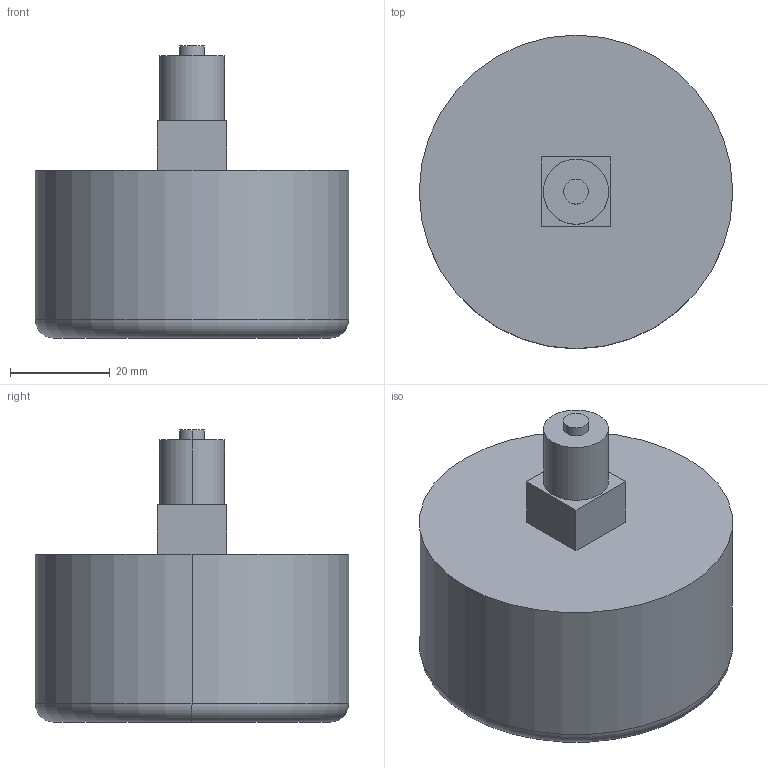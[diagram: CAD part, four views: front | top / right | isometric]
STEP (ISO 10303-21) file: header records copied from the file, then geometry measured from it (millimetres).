
FILE_DESCRIPTION (( 'STEP AP214' ), '1' );
FILE_NAME ('Manometr_puszkowy_x_0_3D_AFRISO.STEP', '2022-12-14T11:22:30', ( '' ), ( '' ), 'SwSTEP 2.0', 'SolidWorks 2022', '' );
FILE_SCHEMA (( 'AUTOMOTIVE_DESIGN' ));
Length unit declared in the file: millimetre
Products named in the file (1): Manometr_puszkowy_x_0_3D_AFRISO
Bounding box: 63 x 63 x 58.7 mm (x, y, z)
Volume: 108236.4 mm3; surface area: 13710.4 mm2
Topology: 1 solids, 1 shells, 17 faces, 34 edges, 22 vertices
Faces by surface type: plane 9, cylinder 6, torus 2
Entity records: 482 total; most frequent: DIRECTION 86, CARTESIAN_POINT 74, ORIENTED_EDGE 68, AXIS2_PLACEMENT_3D 34, EDGE_CURVE 34, VERTEX_POINT 22, EDGE_LOOP 20, LINE 18
